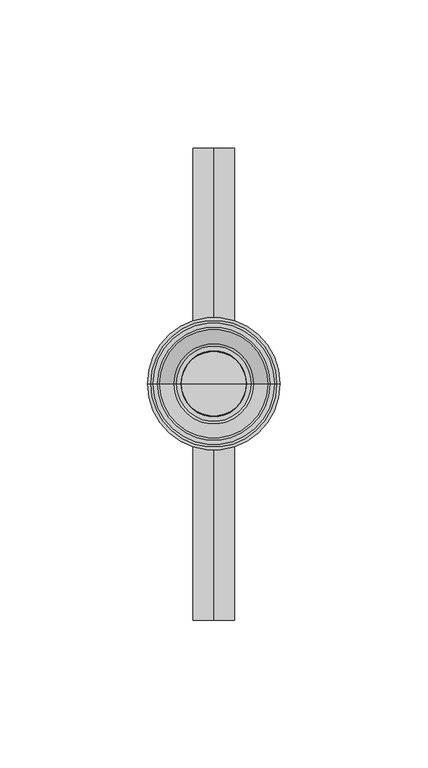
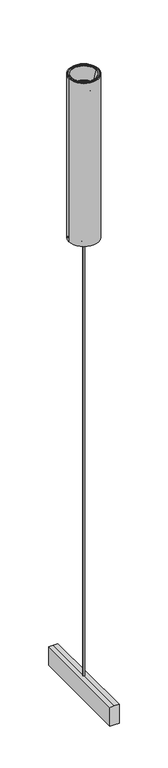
"""IFC4 building model written with IfcOpenShell, lengths in millimetres: light fixture geometry, Nooraneh_Multi Track_Silva Pendant 40 : Nooraneh_Multi Track_Silva Pendant_D 40mm_ies(39 R PC-PCP_LDT)_5.5w@80.50lm/w."""

from ifc_helpers import new_model, si_unit, point, frame, origin, origin_2d, place, context, project, spatial, polyline, circle_curve, ellipse_curve, trimmed, segment, composite_curve, outline, extrude, source, transform, mapped, element, save
from ifc_brep_helpers import plane_surface, cylinder_surface, revolved_surface, advanced_brep


def light_fixture_878e8f6d(model_context):
    return source(origin(), model_context, "Body", "SolidModel", [
        extrude(outline(polyline([(0.0, 7.0), (30.0, 7.0), (30.0, 0.0), (30.0, -7.0), (0.0, -7.0), (0.0, 0.0), (0.0, 7.0)])), frame((0.0, -80.0, 0.0), z_axis=(0.0, 1.0, 0.0), x_axis=(0.0, 0.0, 1.0)), (0.0, 0.0, 1.0), 160.0),
        extrude(outline(composite_curve([segment(trimmed(circle_curve(origin_2d(), 21.480546), [point((21.480546, 0.0))], [point((-21.480546, 0.0))], False, "CARTESIAN"), True, "CONTINUOUS"), segment(trimmed(circle_curve(origin_2d(), 21.480546), [point((-21.480546, 0.0))], [point((21.480546, 0.0))], False, "CARTESIAN"), True, "CONTINUOUS")], self_intersect=False), holes=[composite_curve([segment(trimmed(circle_curve(origin_2d(), 13.980546), [point((9.8857389, 9.8857389))], [point((-9.8857389, 9.8857389))], True, "CARTESIAN"), True, "CONTINUOUS"), segment(polyline([(-9.8857389, 9.8857389), (-9.1786321, 9.1786321)]), True, "CONTINUOUS"), segment(trimmed(circle_curve(origin_2d(), 12.980546), [point((-9.1786321, 9.1786321))], [point((9.1786321, 9.1786321))], False, "CARTESIAN"), True, "CONTINUOUS"), segment(polyline([(9.1786321, 9.1786321), (9.8857389, 9.8857389)]), True, "CONTINUOUS")], self_intersect=False), composite_curve([segment(trimmed(circle_curve(origin_2d(), 13.980546), [point((3.6184316, -13.5041704))], [point((13.5041704, 3.6184316))], True, "CARTESIAN"), True, "CONTINUOUS"), segment(polyline([(13.5041704, 3.6184316), (12.5382446, 3.3596125)]), True, "CONTINUOUS"), segment(trimmed(circle_curve(origin_2d(), 12.980546), [point((12.5382446, 3.3596125))], [point((3.3596125, -12.5382446))], False, "CARTESIAN"), True, "CONTINUOUS"), segment(polyline([(3.3596125, -12.5382446), (3.6184316, -13.5041704)]), True, "CONTINUOUS")], self_intersect=False), composite_curve([segment(trimmed(circle_curve(origin_2d(), 13.980546), [point((-13.5041704, 3.6184316))], [point((-3.6184316, -13.5041704))], True, "CARTESIAN"), True, "CONTINUOUS"), segment(polyline([(-3.6184316, -13.5041704), (-3.3596125, -12.5382446)]), True, "CONTINUOUS"), segment(trimmed(circle_curve(origin_2d(), 12.980546), [point((-3.3596125, -12.5382446))], [point((-12.5382446, 3.3596125))], False, "CARTESIAN"), True, "CONTINUOUS"), segment(polyline([(-12.5382446, 3.3596125), (-13.5041704, 3.6184316)]), True, "CONTINUOUS")], self_intersect=False), composite_curve([segment(trimmed(circle_curve(origin_2d(), 7.980546), [point((1.0845321, -7.9065102))], [point((-3.990273, -6.9113555))], False, "CARTESIAN"), True, "CONTINUOUS"), segment(polyline([(-3.990273, -6.9113555), (-4.490273, -7.7773809)]), True, "CONTINUOUS"), segment(trimmed(circle_curve(origin_2d(), 8.980546), [point((-4.490273, -7.7773809))], [point((1.2204291, -8.8972332))], True, "CARTESIAN"), True, "CONTINUOUS"), segment(trimmed(circle_curve(origin_2d(), 8.980546), [point((1.2204291, -8.8972332))], [point((4.490273, -7.7773809))], True, "CARTESIAN"), True, "CONTINUOUS"), segment(polyline([(4.490273, -7.7773809), (3.990273, -6.9113555)]), True, "CONTINUOUS"), segment(trimmed(circle_curve(origin_2d(), 7.980546), [point((3.990273, -6.9113555))], [point((1.0845321, -7.9065102))], False, "CARTESIAN"), True, "CONTINUOUS")], self_intersect=False), composite_curve([segment(trimmed(circle_curve(origin_2d(), 7.980546), [point((7.9065102, 1.0845321))], [point((6.9113555, -3.990273))], False, "CARTESIAN"), True, "CONTINUOUS"), segment(polyline([(6.9113555, -3.990273), (7.7773809, -4.490273)]), True, "CONTINUOUS"), segment(trimmed(circle_curve(origin_2d(), 8.980546), [point((7.7773809, -4.490273))], [point((8.8972332, 1.2204291))], True, "CARTESIAN"), True, "CONTINUOUS"), segment(trimmed(circle_curve(origin_2d(), 8.980546), [point((8.8972332, 1.2204291))], [point((7.7773809, 4.490273))], True, "CARTESIAN"), True, "CONTINUOUS"), segment(polyline([(7.7773809, 4.490273), (6.9113555, 3.990273)]), True, "CONTINUOUS"), segment(trimmed(circle_curve(origin_2d(), 7.980546), [point((6.9113555, 3.990273))], [point((7.9065102, 1.0845321))], False, "CARTESIAN"), True, "CONTINUOUS")], self_intersect=False), composite_curve([segment(trimmed(circle_curve(origin_2d(), 7.980546), [point((-7.9065102, 1.0845321))], [point((-6.9113555, 3.990273))], False, "CARTESIAN"), True, "CONTINUOUS"), segment(polyline([(-6.9113555, 3.990273), (-7.7773809, 4.490273)]), True, "CONTINUOUS"), segment(trimmed(circle_curve(origin_2d(), 8.980546), [point((-7.7773809, 4.490273))], [point((-8.8972332, 1.2204291))], True, "CARTESIAN"), True, "CONTINUOUS"), segment(trimmed(circle_curve(origin_2d(), 8.980546), [point((-8.8972332, 1.2204291))], [point((-7.7773809, -4.490273))], True, "CARTESIAN"), True, "CONTINUOUS"), segment(polyline([(-7.7773809, -4.490273), (-6.9113555, -3.990273)]), True, "CONTINUOUS"), segment(trimmed(circle_curve(origin_2d(), 7.980546), [point((-6.9113555, -3.990273))], [point((-7.9065102, 1.0845321))], False, "CARTESIAN"), True, "CONTINUOUS")], self_intersect=False), composite_curve([segment(trimmed(circle_curve(origin_2d(), 7.980546), [point((1.0845321, 7.9065102))], [point((3.990273, 6.9113555))], False, "CARTESIAN"), True, "CONTINUOUS"), segment(polyline([(3.990273, 6.9113555), (4.490273, 7.7773809)]), True, "CONTINUOUS"), segment(trimmed(circle_curve(origin_2d(), 8.980546), [point((4.490273, 7.7773809))], [point((1.2204291, 8.8972332))], True, "CARTESIAN"), True, "CONTINUOUS"), segment(trimmed(circle_curve(origin_2d(), 8.980546), [point((1.2204291, 8.8972332))], [point((-4.490273, 7.7773809))], True, "CARTESIAN"), True, "CONTINUOUS"), segment(polyline([(-4.490273, 7.7773809), (-3.990273, 6.9113555)]), True, "CONTINUOUS"), segment(trimmed(circle_curve(origin_2d(), 7.980546), [point((-3.990273, 6.9113555))], [point((1.0845321, 7.9065102))], False, "CARTESIAN"), True, "CONTINUOUS")], self_intersect=False)]), frame((0.0, 0.0, 730.0), z_axis=(0.0, 0.0, 1.0), x_axis=(1.0, 0.0, 0.0)), (0.0, 0.0, 1.0), 1.9828508),
        advanced_brep(
        [(-22.5, 0.0, 990.0), (22.5, 0.0, 990.0), (22.5, 0.0, 730.0), (-22.5, 0.0, 730.0), (-21.480546, 0.0, 990.0), (21.480546, 0.0, 990.0), (-13.6233119, 0.0, 970.7281143), (13.6233119, 0.0, 970.7281143), (18.3498907, 0.0, 989.4708681), (-18.3498907, 0.0, 989.4708681), (-12.7704108, 0.0, 970.1154465), (12.7704108, 0.0, 970.1154465), (-11.25, 0.0, 970.1154465), (11.25, 0.0, 970.1154465), (-11.25, 0.0, 969.1981423), (11.25, 0.0, 969.1981423), (0.0, 0.0, 969.1981423), (-12.25, 0.0, 968.1981423), (12.25, 0.0, 968.1981423), (0.0, 0.0, 968.1981423), (-12.25, 0.0, 969.1881062), (12.25, 0.0, 969.1881062), (-14.5844046, 0.0, 970.4502682), (14.5844046, 0.0, 970.4502682), (-17.8456659, 0.0, 981.2932769), (17.8456659, 0.0, 981.2932769), (-21.5, 0.0, 981.2932769), (21.5, 0.0, 981.2932769), (-21.5, 0.0, 730.0), (21.5, 0.0, 730.0), (-21.480546, 0.0, 981.8330375), (21.480546, 0.0, 981.8330375), (-20.5891954, 0.0, 981.8330375), (20.5891954, 0.0, 981.8330375), (-20.5891954, 0.0, 990.0), (20.5891954, 0.0, 990.0), (-19.1699254, 0.0, 990.0), (19.1699254, 0.0, 990.0)],
        [
            (0, 1, circle_curve(frame((0.0, 0.0, 990.0), z_axis=(0.0, 0.0, -1.0), x_axis=(1.0, 0.0, 0.0)), 22.5)),
            (1, 2),
            (2, 3, circle_curve(frame((0.0, 0.0, 730.0), z_axis=(0.0, 0.0, 1.0), x_axis=(1.0, 0.0, 0.0)), 22.5)),
            (3, 0),
            (1, 0, circle_curve(frame((0.0, 0.0, 990.0), z_axis=(0.0, 0.0, -1.0), x_axis=(1.0, 0.0, 0.0)), 22.5)),
            (3, 2, circle_curve(frame((0.0, 0.0, 730.0), z_axis=(0.0, 0.0, 1.0), x_axis=(1.0, 0.0, 0.0)), 22.5)),
            (4, 5, circle_curve(frame((0.0, 0.0, 990.0), z_axis=(0.0, 0.0, -1.0), x_axis=(1.0, 0.0, 0.0)), 21.480546)),
            (5, 1),
            (0, 4),
            (5, 4, circle_curve(frame((0.0, 0.0, 990.0), z_axis=(0.0, 0.0, -1.0), x_axis=(1.0, 0.0, 0.0)), 21.480546)),
            (6, 7, circle_curve(frame((0.0, 0.0, 970.7281143), z_axis=(0.0, 0.0, -1.0), x_axis=(1.0, 0.0, 0.0)), 13.6233119)),
            (7, 8),
            (8, 9, circle_curve(frame((0.0, 0.0, 989.4708681), z_axis=(0.0, 0.0, 1.0), x_axis=(1.0, 0.0, 0.0)), 18.3498907)),
            (9, 6),
            (7, 6, circle_curve(frame((0.0, 0.0, 970.7281143), z_axis=(0.0, 0.0, -1.0), x_axis=(1.0, 0.0, 0.0)), 13.6233119)),
            (9, 8, circle_curve(frame((0.0, 0.0, 989.4708681), z_axis=(0.0, 0.0, 1.0), x_axis=(1.0, 0.0, 0.0)), 18.3498907)),
            (10, 11, circle_curve(frame((0.0, 0.0, 970.1154465), z_axis=(0.0, 0.0, -1.0), x_axis=(1.0, 0.0, 0.0)), 12.7704108)),
            (11, 7, circle_curve(frame((12.7704108, 0.0, 971.0154465), z_axis=(0.0, -1.0, 0.0), x_axis=(1.0, 0.0, 0.0)), 0.9)),
            (6, 10, circle_curve(frame((-12.7704108, 0.0, 971.0154465), z_axis=(0.0, -1.0, 0.0), x_axis=(-1.0, 0.0, 0.0)), 0.9)),
            (11, 10, circle_curve(frame((0.0, 0.0, 970.1154465), z_axis=(0.0, 0.0, -1.0), x_axis=(1.0, 0.0, 0.0)), 12.7704108)),
            (12, 13, circle_curve(frame((0.0, 0.0, 970.1154465), z_axis=(0.0, 0.0, -1.0), x_axis=(1.0, 0.0, 0.0)), 11.25)),
            (13, 11),
            (10, 12),
            (13, 12, circle_curve(frame((0.0, 0.0, 970.1154465), z_axis=(0.0, 0.0, -1.0), x_axis=(1.0, 0.0, 0.0)), 11.25)),
            (14, 15, circle_curve(frame((0.0, 0.0, 969.1981423), z_axis=(0.0, 0.0, -1.0), x_axis=(1.0, 0.0, 0.0)), 11.25)),
            (15, 13),
            (12, 14),
            (15, 14, circle_curve(frame((0.0, 0.0, 969.1981423), z_axis=(0.0, 0.0, -1.0), x_axis=(1.0, 0.0, 0.0)), 11.25)),
            (16, 15),
            (14, 16),
            (17, 18, circle_curve(frame((0.0, 0.0, 968.1981423), z_axis=(0.0, 0.0, -1.0), x_axis=(1.0, 0.0, 0.0)), 12.25)),
            (18, 19),
            (19, 17),
            (18, 17, circle_curve(frame((0.0, 0.0, 968.1981423), z_axis=(0.0, 0.0, -1.0), x_axis=(1.0, 0.0, 0.0)), 12.25)),
            (20, 21, circle_curve(frame((0.0, 0.0, 969.1881062), z_axis=(0.0, 0.0, -1.0), x_axis=(1.0, 0.0, 0.0)), 12.25)),
            (21, 18),
            (17, 20),
            (21, 20, circle_curve(frame((0.0, 0.0, 969.1881062), z_axis=(0.0, 0.0, -1.0), x_axis=(1.0, 0.0, 0.0)), 12.25)),
            (22, 23, circle_curve(frame((0.0, 0.0, 970.4502682), z_axis=(0.0, 0.0, -1.0), x_axis=(1.0, 0.0, 0.0)), 14.5844046)),
            (23, 21, circle_curve(frame((12.7704108, 0.0, 971.0154465), z_axis=(0.0, 1.0, 0.0), x_axis=(1.0, 0.0, 0.0)), 1.9)),
            (20, 22, circle_curve(frame((-12.7704108, 0.0, 971.0154465), z_axis=(0.0, 1.0, 0.0), x_axis=(-1.0, 0.0, 0.0)), 1.9)),
            (23, 22, circle_curve(frame((0.0, 0.0, 970.4502682), z_axis=(0.0, 0.0, -1.0), x_axis=(1.0, 0.0, 0.0)), 14.5844046)),
            (24, 25, circle_curve(frame((0.0, 0.0, 981.2932769), z_axis=(0.0, 0.0, -1.0), x_axis=(1.0, 0.0, 0.0)), 17.8456659)),
            (25, 23),
            (22, 24),
            (25, 24, circle_curve(frame((0.0, 0.0, 981.2932769), z_axis=(0.0, 0.0, -1.0), x_axis=(1.0, 0.0, 0.0)), 17.8456659)),
            (26, 27, circle_curve(frame((0.0, 0.0, 981.2932769), z_axis=(0.0, 0.0, -1.0), x_axis=(1.0, 0.0, 0.0)), 21.5)),
            (27, 25),
            (24, 26),
            (27, 26, circle_curve(frame((0.0, 0.0, 981.2932769), z_axis=(0.0, 0.0, -1.0), x_axis=(1.0, 0.0, 0.0)), 21.5)),
            (28, 29, circle_curve(frame((0.0, 0.0, 730.0), z_axis=(0.0, 0.0, -1.0), x_axis=(1.0, 0.0, 0.0)), 21.5)),
            (29, 27),
            (26, 28),
            (29, 28, circle_curve(frame((0.0, 0.0, 730.0), z_axis=(0.0, 0.0, -1.0), x_axis=(1.0, 0.0, 0.0)), 21.5)),
            (2, 29),
            (28, 3),
            (30, 31, circle_curve(frame((0.0, 0.0, 981.8330375), z_axis=(0.0, 0.0, -1.0), x_axis=(1.0, 0.0, 0.0)), 21.480546)),
            (31, 5),
            (4, 30),
            (31, 30, circle_curve(frame((0.0, 0.0, 981.8330375), z_axis=(0.0, 0.0, -1.0), x_axis=(1.0, 0.0, 0.0)), 21.480546)),
            (32, 33, circle_curve(frame((0.0, 0.0, 981.8330375), z_axis=(0.0, 0.0, -1.0), x_axis=(1.0, 0.0, 0.0)), 20.5891954)),
            (33, 31),
            (30, 32),
            (33, 32, circle_curve(frame((0.0, 0.0, 981.8330375), z_axis=(0.0, 0.0, -1.0), x_axis=(1.0, 0.0, 0.0)), 20.5891954)),
            (34, 35, circle_curve(frame((0.0, 0.0, 990.0), z_axis=(0.0, 0.0, -1.0), x_axis=(1.0, 0.0, 0.0)), 20.5891954)),
            (35, 33),
            (32, 34),
            (35, 34, circle_curve(frame((0.0, 0.0, 990.0), z_axis=(0.0, 0.0, -1.0), x_axis=(1.0, 0.0, 0.0)), 20.5891954)),
            (36, 37, circle_curve(frame((0.0, 0.0, 990.0), z_axis=(0.0, 0.0, -1.0), x_axis=(1.0, 0.0, 0.0)), 19.1699254)),
            (37, 35),
            (34, 36),
            (37, 36, circle_curve(frame((0.0, 0.0, 990.0), z_axis=(0.0, 0.0, -1.0), x_axis=(1.0, 0.0, 0.0)), 19.1699254)),
            (8, 37, circle_curve(frame((19.1699254, 0.0, 989.1), z_axis=(0.0, 1.0, 0.0), x_axis=(1.0, 0.0, 0.0)), 0.9)),
            (36, 9, circle_curve(frame((-19.1699254, 0.0, 989.1), z_axis=(0.0, 1.0, 0.0), x_axis=(-1.0, 0.0, 0.0)), 0.9)),
        ],
        [
            cylinder_surface(frame((0.0, 0.0, 730.0), z_axis=(0.0, 0.0, 1.0), x_axis=(1.0, 0.0, 0.0)), 22.5),
            plane_surface(frame((0.0, 0.0, 990.0), z_axis=(0.0, 0.0, 1.0), x_axis=(1.0, 0.0, 0.0))),
            revolved_surface(polyline([(18.3498907, 0.0, 989.4708681), (13.6233119, 0.0, 970.7281143)]), (0.0, 0.0, 730.0), (0.0, 0.0, 1.0)),
            revolved_surface(trimmed(ellipse_curve(frame((12.7704108, 0.0, 971.0154465), z_axis=(0.0, 1.0, 0.0), x_axis=(1.0, 0.0, 0.0)), 0.9, 0.9), [point((13.6233119, 0.0, 970.7281143))], [point((12.7704108, 0.0, 970.1154465))], True, "CARTESIAN"), (0.0, 0.0, 730.0), (0.0, 0.0, 1.0)),
            plane_surface(frame((0.0, 0.0, 970.1154465), z_axis=(0.0, 0.0, 1.0), x_axis=(1.0, 0.0, 0.0))),
            revolved_surface(polyline([(11.25, 0.0, 970.1154465), (11.25, 0.0, 969.1981423)]), (0.0, 0.0, 730.0), (0.0, 0.0, 1.0)),
            plane_surface(frame((0.0, 0.0, 969.1981423), z_axis=(0.0, 0.0, 1.0), x_axis=(1.0, 0.0, 0.0))),
            plane_surface(frame((0.0, 0.0, 968.1981423), z_axis=(0.0, 0.0, -1.0), x_axis=(1.0, 0.0, 0.0))),
            cylinder_surface(frame((0.0, 0.0, 730.0), z_axis=(0.0, 0.0, 1.0), x_axis=(1.0, 0.0, 0.0)), 12.25),
            revolved_surface(trimmed(ellipse_curve(frame((12.7704108, 0.0, 971.0154465), z_axis=(0.0, -1.0, 0.0), x_axis=(1.0, 0.0, 0.0)), 1.9, 1.9), [point((12.25, 0.0, 969.1881062))], [point((14.5844046, 0.0, 970.4502682))], True, "CARTESIAN"), (0.0, 0.0, 730.0), (0.0, 0.0, 1.0)),
            revolved_surface(polyline([(14.5844046, 0.0, 970.4502682), (17.8456659, 0.0, 981.2932769)]), (0.0, 0.0, 730.0), (0.0, 0.0, 1.0)),
            plane_surface(frame((0.0, 0.0, 981.2932769), z_axis=(0.0, 0.0, -1.0), x_axis=(1.0, 0.0, 0.0))),
            revolved_surface(polyline([(21.5, 0.0, 981.2932769), (21.5, 0.0, 730.0)]), (0.0, 0.0, 730.0), (0.0, 0.0, 1.0)),
            plane_surface(frame((0.0, 0.0, 730.0), z_axis=(0.0, 0.0, -1.0), x_axis=(1.0, 0.0, 0.0))),
            revolved_surface(polyline([(21.480546, 0.0, 990.0), (21.480546, 0.0, 981.8330375)]), (0.0, 0.0, 730.0), (0.0, 0.0, 1.0)),
            plane_surface(frame((0.0, 0.0, 981.8330375), z_axis=(0.0, 0.0, 1.0), x_axis=(1.0, 0.0, 0.0))),
            cylinder_surface(frame((0.0, 0.0, 730.0), z_axis=(0.0, 0.0, 1.0), x_axis=(1.0, 0.0, 0.0)), 20.5891954),
            revolved_surface(trimmed(ellipse_curve(frame((19.1699254, 0.0, 989.1), z_axis=(0.0, -1.0, 0.0), x_axis=(1.0, 0.0, 0.0)), 0.9, 0.9), [point((19.1699254, 0.0, 990.0))], [point((18.3498907, 0.0, 989.4708681))], True, "CARTESIAN"), (0.0, 0.0, 730.0), (0.0, 0.0, 1.0)),
        ],
        [
            (0, [[1, 2, 3, 4]]),
            (0, [[5, -4, 6, -2]]),
            (1, [[7, 8, -1, 9]]),
            (1, [[10, -9, -5, -8]]),
            (2, [[11, 12, 13, 14]]),
            (2, [[15, -14, 16, -12]]),
            (3, [[17, 18, -11, 19]]),
            (3, [[20, -19, -15, -18]]),
            (4, [[21, 22, -17, 23]]),
            (4, [[24, -23, -20, -22]]),
            (5, [[25, 26, -21, 27]]),
            (5, [[28, -27, -24, -26]]),
            (6, [[29, -25, 30]]),
            (6, [[-30, -28, -29]]),
            (7, [[31, 32, 33]]),
            (7, [[34, -33, -32]]),
            (8, [[35, 36, -31, 37]]),
            (8, [[38, -37, -34, -36]]),
            (9, [[39, 40, -35, 41]]),
            (9, [[42, -41, -38, -40]]),
            (10, [[43, 44, -39, 45]]),
            (10, [[46, -45, -42, -44]]),
            (11, [[47, 48, -43, 49]]),
            (11, [[50, -49, -46, -48]]),
            (12, [[51, 52, -47, 53]]),
            (12, [[54, -53, -50, -52]]),
            (13, [[-3, 55, -51, 56]]),
            (13, [[-6, -56, -54, -55]]),
            (14, [[57, 58, -7, 59]]),
            (14, [[60, -59, -10, -58]]),
            (15, [[61, 62, -57, 63]]),
            (15, [[64, -63, -60, -62]]),
            (16, [[65, 66, -61, 67]]),
            (16, [[68, -67, -64, -66]]),
            (1, [[69, 70, -65, 71]]),
            (1, [[72, -71, -68, -70]]),
            (17, [[-13, 73, -69, 74]]),
            (17, [[-16, -74, -72, -73]]),
        ],
    ),
        advanced_brep(
        [(0.0, 0.0, 970.8784508), (10.9323505, 0.0, 970.8784508), (-10.9323505, 0.0, 970.8784508), (-10.9323505, 0.0, 969.4810739), (10.9323505, 0.0, 969.4810739), (0.0, 0.0, 969.4810739)],
        [
            (0, 1),
            (1, 2, circle_curve(frame((0.0, 0.0, 970.8784508), z_axis=(0.0, 0.0, 1.0), x_axis=(1.0, 0.0, 0.0)), 10.9323505)),
            (2, 0),
            (2, 1, circle_curve(frame((0.0, 0.0, 970.8784508), z_axis=(0.0, 0.0, 1.0), x_axis=(1.0, 0.0, 0.0)), 10.9323505)),
            (3, 4, circle_curve(frame((0.0, 0.0, 969.4810739), z_axis=(0.0, 0.0, -1.0), x_axis=(1.0, 0.0, 0.0)), 10.9323505)),
            (4, 5),
            (5, 3),
            (4, 3, circle_curve(frame((0.0, 0.0, 969.4810739), z_axis=(0.0, 0.0, -1.0), x_axis=(1.0, 0.0, 0.0)), 10.9323505)),
            (1, 4),
            (3, 2),
        ],
        [
            plane_surface(frame((0.0, 0.0, 970.8784508), z_axis=(0.0, 0.0, 1.0), x_axis=(1.0, 0.0, 0.0))),
            plane_surface(frame((0.0, 0.0, 969.4810739), z_axis=(0.0, 0.0, -1.0), x_axis=(1.0, 0.0, 0.0))),
            cylinder_surface(frame((0.0, 0.0, 730.0), z_axis=(0.0, 0.0, 1.0), x_axis=(1.0, 0.0, 0.0)), 10.9323505),
        ],
        [
            (0, [[1, 2, 3]]),
            (0, [[-3, 4, -1]]),
            (1, [[5, 6, 7]]),
            (1, [[8, -7, -6]]),
            (2, [[-2, 9, -5, 10]]),
            (2, [[-4, -10, -8, -9]]),
        ],
    ),
        advanced_brep(
        [(-1.5, 0.0, 30.0), (1.5, 0.0, 30.0), (0.0, 0.0, 30.0), (-1.5, 0.0, 727.0), (1.5, 0.0, 727.0), (-7.0034489, 0.0, 727.0), (7.0034489, 0.0, 727.0), (-7.5034489, 0.0, 727.5), (7.5034489, 0.0, 727.5), (-7.5034489, 0.0, 730.0), (7.5034489, 0.0, 730.0), (0.0, 0.0, 730.0)],
        [
            (0, 1, circle_curve(frame((0.0, 0.0, 30.0), z_axis=(0.0, 0.0, -1.0), x_axis=(1.0, 0.0, 0.0)), 1.5)),
            (1, 2),
            (2, 0),
            (1, 0, circle_curve(frame((0.0, 0.0, 30.0), z_axis=(0.0, 0.0, -1.0), x_axis=(1.0, 0.0, 0.0)), 1.5)),
            (3, 4, circle_curve(frame((0.0, 0.0, 727.0), z_axis=(0.0, 0.0, -1.0), x_axis=(1.0, 0.0, 0.0)), 1.5)),
            (4, 1),
            (0, 3),
            (4, 3, circle_curve(frame((0.0, 0.0, 727.0), z_axis=(0.0, 0.0, -1.0), x_axis=(1.0, 0.0, 0.0)), 1.5)),
            (5, 6, circle_curve(frame((0.0, 0.0, 727.0), z_axis=(0.0, 0.0, -1.0), x_axis=(1.0, 0.0, 0.0)), 7.0034489)),
            (6, 4),
            (3, 5),
            (6, 5, circle_curve(frame((0.0, 0.0, 727.0), z_axis=(0.0, 0.0, -1.0), x_axis=(1.0, 0.0, 0.0)), 7.0034489)),
            (7, 8, circle_curve(frame((0.0, 0.0, 727.5), z_axis=(0.0, 0.0, -1.0), x_axis=(1.0, 0.0, 0.0)), 7.5034489)),
            (8, 6, circle_curve(frame((7.0034489, 0.0, 727.5), z_axis=(0.0, 1.0, 0.0), x_axis=(1.0, 0.0, 0.0)), 0.5)),
            (5, 7, circle_curve(frame((-7.0034489, 0.0, 727.5), z_axis=(0.0, 1.0, 0.0), x_axis=(-1.0, 0.0, 0.0)), 0.5)),
            (8, 7, circle_curve(frame((0.0, 0.0, 727.5), z_axis=(0.0, 0.0, -1.0), x_axis=(1.0, 0.0, 0.0)), 7.5034489)),
            (9, 10, circle_curve(frame((0.0, 0.0, 730.0), z_axis=(0.0, 0.0, -1.0), x_axis=(1.0, 0.0, 0.0)), 7.5034489)),
            (10, 8),
            (7, 9),
            (10, 9, circle_curve(frame((0.0, 0.0, 730.0), z_axis=(0.0, 0.0, -1.0), x_axis=(1.0, 0.0, 0.0)), 7.5034489)),
            (11, 10),
            (9, 11),
        ],
        [
            plane_surface(frame((0.0, 0.0, 30.0), z_axis=(0.0, 0.0, -1.0), x_axis=(1.0, 0.0, 0.0))),
            cylinder_surface(frame((0.0, 0.0, 315.0), z_axis=(0.0, 0.0, 1.0), x_axis=(1.0, 0.0, 0.0)), 1.5),
            plane_surface(frame((0.0, 0.0, 727.0), z_axis=(0.0, 0.0, -1.0), x_axis=(1.0, 0.0, 0.0))),
            revolved_surface(trimmed(ellipse_curve(frame((7.0034489, 0.0, 727.5), z_axis=(0.0, -1.0, 0.0), x_axis=(1.0, 0.0, 0.0)), 0.5, 0.5), [point((7.0034489, 0.0, 727.0))], [point((7.5034489, 0.0, 727.5))], True, "CARTESIAN"), (0.0, 0.0, 315.0), (0.0, 0.0, 1.0)),
            cylinder_surface(frame((0.0, 0.0, 315.0), z_axis=(0.0, 0.0, 1.0), x_axis=(1.0, 0.0, 0.0)), 7.5034489),
            plane_surface(frame((0.0, 0.0, 730.0), z_axis=(0.0, 0.0, 1.0), x_axis=(1.0, 0.0, 0.0))),
        ],
        [
            (0, [[1, 2, 3]]),
            (0, [[4, -3, -2]]),
            (1, [[5, 6, -1, 7]]),
            (1, [[8, -7, -4, -6]]),
            (2, [[9, 10, -5, 11]]),
            (2, [[12, -11, -8, -10]]),
            (3, [[13, 14, -9, 15]]),
            (3, [[16, -15, -12, -14]]),
            (4, [[17, 18, -13, 19]]),
            (4, [[20, -19, -16, -18]]),
            (5, [[21, -17, 22]]),
            (5, [[-22, -20, -21]]),
        ],
    ),
    ])


if __name__ == "__main__":
    model = new_model("IFC4")
    model_context = context("Model", 3, world=origin())
    ifc_project = project(units=[si_unit("LENGTHUNIT", "METRE", prefix="MILLI")], contexts=[model_context])
    site = spatial("IfcSite", under=ifc_project)
    building = spatial("IfcBuilding", under=site)
    placement = place(None, origin())
    light_fixture_shape = light_fixture_878e8f6d(model_context)
    element("IfcLightFixture", 1, ObjectType="Nooraneh_Multi Track_Silva Pendant 40 : Nooraneh_Multi Track_Silva Pendant_D 40mm_ies(39 R PC-PCP_LDT)_5.5w@80.50lm/w", at=placement, inside=building, context=model_context, shape_type="MappedRepresentation", body=[
        mapped(light_fixture_shape, transform((0.0, 0.0, 0.0), x_axis=(1.0, 0.0, 0.0), y_axis=(0.0, 1.0, 0.0), z_axis=(0.0, 0.0, 1.0))),
    ])
    save(model, "model.ifc")
